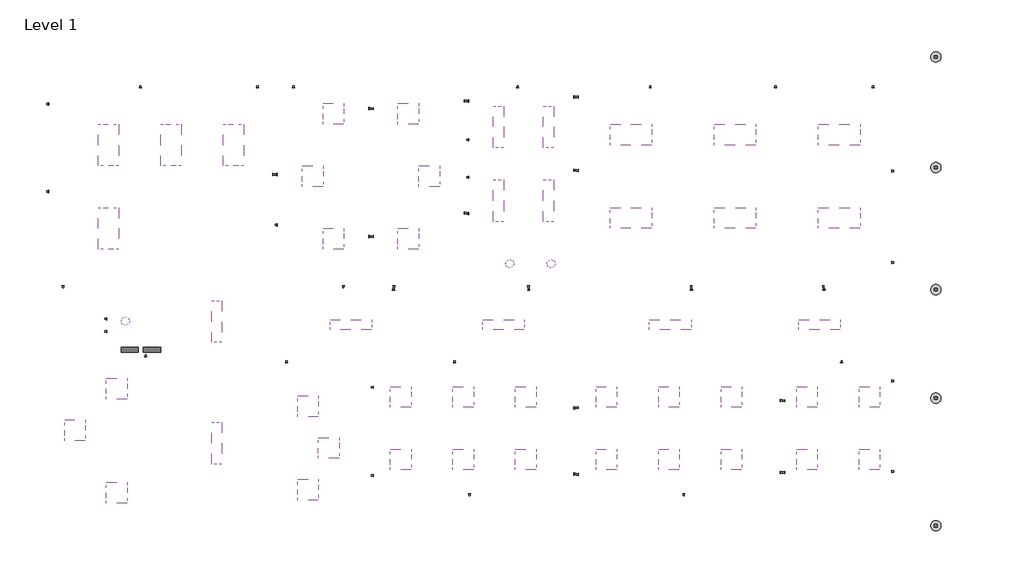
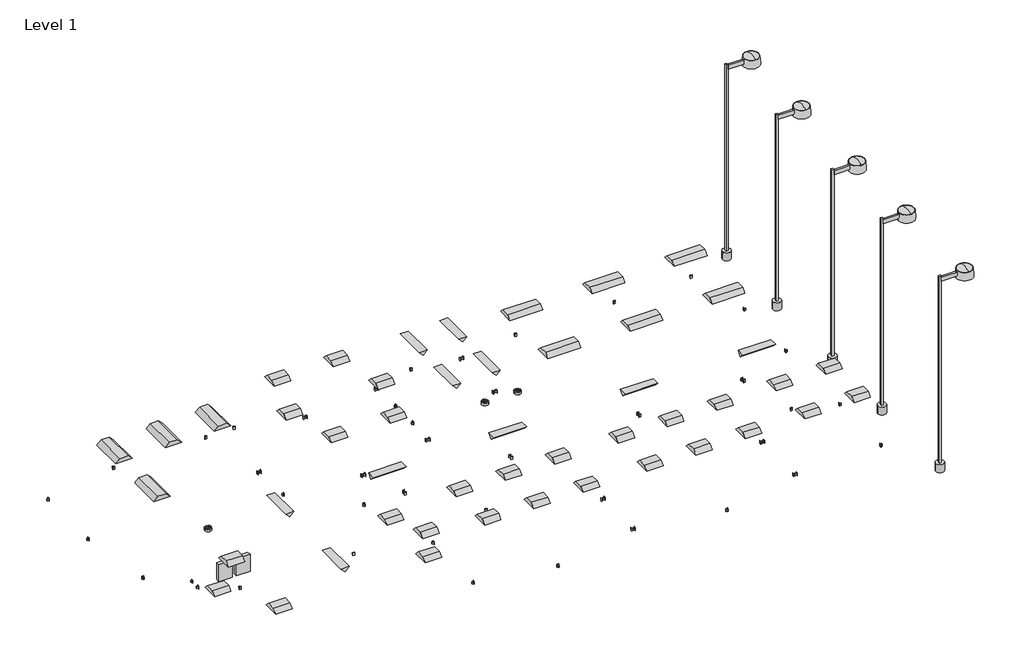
# One storey: 60 proxies, 56 light fixtures.
"""IFC4 building model written with IfcOpenShell, lengths in millimetres."""

from ifc_helpers import new_model, si_unit, origin, place, context, project, spatial, transform, mapped, element, save
from components import duplex_receptacle_standard_10251bba, lighting_and_appliance_panelboard_480v_mlo_125_a_3907a416, ceiling_light_flat_round_60w_277v_a3c1fe64, plain_recessed_lighting_fixture_1x4_277_73690371, plain_recessed_lighting_fixture_2x2_277_2107ce2d, plain_recessed_lighting_fixture_2x4_277_d3d5fc87, street_light_standard_400w_halogen_277v_63d2c179

model = new_model("IFC4")

# Units and contexts
model_context = context("Model", 3, world=origin())
ifc_project = project(units=[si_unit("LENGTHUNIT", "METRE", prefix="MILLI")], contexts=[model_context])

# Site, building, storey
site = spatial("IfcSite", under=ifc_project)
building = spatial("IfcBuilding", under=site)
storey = spatial("IfcBuildingStorey", under=building, Name="Level 1", Elevation=0.0)

# Proxies
placement = place(None, origin())
duplex_receptacle_standard_shape = duplex_receptacle_standard_10251bba(model_context)
element("IfcBuildingElementProxy", 1, Name="Duplex Receptacle : Standard", ObjectType="Duplex Receptacle : Standard", at=placement, inside=storey, context=model_context, shape_type="MappedRepresentation", body=[
    mapped(duplex_receptacle_standard_shape, transform((-35.6380103, 2648.1174507, 457.2), x_axis=(0.0, 1.0, 0.0), y_axis=(0.0, 0.0, 1.0), z_axis=(1.0, 0.0, 0.0))),
])
element("IfcBuildingElementProxy", 2, Name="Duplex Receptacle : Standard", ObjectType="Duplex Receptacle : Standard", at=placement, inside=storey, context=model_context, shape_type="MappedRepresentation", body=[
    mapped(duplex_receptacle_standard_shape, transform((-35.6380103, 3713.8918475, 457.2), x_axis=(0.0, 1.0, 0.0), y_axis=(0.0, 0.0, 1.0), z_axis=(1.0, 0.0, 0.0))),
])
element("IfcBuildingElementProxy", 3, Name="Duplex Receptacle : Standard", ObjectType="Duplex Receptacle : Standard", at=placement, inside=storey, context=model_context, shape_type="MappedRepresentation", body=[
    mapped(duplex_receptacle_standard_shape, transform((-35.6380103, 4811.7196097, 457.2), x_axis=(0.0, 1.0, 0.0), y_axis=(0.0, 0.0, 1.0), z_axis=(1.0, 0.0, 0.0))),
])
element("IfcBuildingElementProxy", 4, Name="Duplex Receptacle : Standard", ObjectType="Duplex Receptacle : Standard", at=placement, inside=storey, context=model_context, shape_type="MappedRepresentation", body=[
    mapped(duplex_receptacle_standard_shape, transform((-35.6380103, 5949.6140785, 457.2), x_axis=(0.0, 1.0, 0.0), y_axis=(0.0, 0.0, 1.0), z_axis=(1.0, 0.0, 0.0))),
])
element("IfcBuildingElementProxy", 5, Name="Duplex Receptacle : Standard", ObjectType="Duplex Receptacle : Standard", at=placement, inside=storey, context=model_context, shape_type="MappedRepresentation", body=[
    mapped(duplex_receptacle_standard_shape, transform((3054.9541807, 6058.3078836, 457.2), x_axis=(0.0, -1.0, 0.0), y_axis=(0.0, 0.0, 1.0), z_axis=(-1.0, 0.0, 0.0))),
])
element("IfcBuildingElementProxy", 6, Name="Duplex Receptacle : Standard", ObjectType="Duplex Receptacle : Standard", at=placement, inside=storey, context=model_context, shape_type="MappedRepresentation", body=[
    mapped(duplex_receptacle_standard_shape, transform((3054.9541807, 3918.7457486, 457.2), x_axis=(0.0, -1.0, 0.0), y_axis=(0.0, 0.0, 1.0), z_axis=(-1.0, 0.0, 0.0))),
])
element("IfcBuildingElementProxy", 7, Name="Duplex Receptacle : Standard", ObjectType="Duplex Receptacle : Standard", at=placement, inside=storey, context=model_context, shape_type="MappedRepresentation", body=[
    mapped(duplex_receptacle_standard_shape, transform((1404.1361978, 6330.7167452, 457.2), x_axis=(1.0, 0.0, 0.0), y_axis=(0.0, 0.0, 1.0), z_axis=(0.0, -1.0, 0.0))),
])
element("IfcBuildingElementProxy", 8, Name="Duplex Receptacle : Standard", ObjectType="Duplex Receptacle : Standard", at=placement, inside=storey, context=model_context, shape_type="MappedRepresentation", body=[
    mapped(duplex_receptacle_standard_shape, transform((-11896.9375423, 539.3362982, 457.2), x_axis=(-1.0, 0.0, 0.0), y_axis=(0.0, 0.0, 1.0), z_axis=(0.0, 1.0, 0.0))),
])
element("IfcBuildingElementProxy", 9, Name="Duplex Receptacle : Standard", ObjectType="Duplex Receptacle : Standard", at=placement, inside=storey, context=model_context, shape_type="MappedRepresentation", body=[
    mapped(duplex_receptacle_standard_shape, transform((-12326.8965226, 3293.728876, 457.2), x_axis=(0.0, 1.0, 0.0), y_axis=(0.0, 0.0, 1.0), z_axis=(1.0, 0.0, 0.0))),
])
element("IfcBuildingElementProxy", 10, Name="Duplex Receptacle : Standard", ObjectType="Duplex Receptacle : Standard", at=placement, inside=storey, context=model_context, shape_type="MappedRepresentation", body=[
    mapped(duplex_receptacle_standard_shape, transform((-12326.8965226, 5855.4034771, 457.2), x_axis=(0.0, 1.0, 0.0), y_axis=(0.0, 0.0, 1.0), z_axis=(1.0, 0.0, 0.0))),
])
element("IfcBuildingElementProxy", 11, Name="Duplex Receptacle : Standard", ObjectType="Duplex Receptacle : Standard", at=placement, inside=storey, context=model_context, shape_type="MappedRepresentation", body=[
    mapped(duplex_receptacle_standard_shape, transform((-9637.0519321, 6330.7167452, 457.2), x_axis=(1.0, 0.0, 0.0), y_axis=(0.0, 0.0, 1.0), z_axis=(0.0, -1.0, 0.0))),
])
element("IfcBuildingElementProxy", 12, Name="Duplex Receptacle : Standard", ObjectType="Duplex Receptacle : Standard", at=placement, inside=storey, context=model_context, shape_type="MappedRepresentation", body=[
    mapped(duplex_receptacle_standard_shape, transform((-6212.0214597, 6330.7167452, 457.2), x_axis=(1.0, 0.0, 0.0), y_axis=(0.0, 0.0, 1.0), z_axis=(0.0, -1.0, 0.0))),
])
element("IfcBuildingElementProxy", 13, Name="Duplex Receptacle : Standard", ObjectType="Duplex Receptacle : Standard", at=placement, inside=storey, context=model_context, shape_type="MappedRepresentation", body=[
    mapped(duplex_receptacle_standard_shape, transform((-5761.7329716, 3793.1487614, 457.2), x_axis=(0.0, -1.0, 0.0), y_axis=(0.0, 0.0, 1.0), z_axis=(-1.0, 0.0, 0.0))),
])
element("IfcBuildingElementProxy", 14, Name="Duplex Receptacle : Standard", ObjectType="Duplex Receptacle : Standard", at=placement, inside=storey, context=model_context, shape_type="MappedRepresentation", body=[
    mapped(duplex_receptacle_standard_shape, transform((-3696.8781677, 539.3362982, 457.2), x_axis=(-1.0, 0.0, 0.0), y_axis=(0.0, 0.0, 1.0), z_axis=(0.0, 1.0, 0.0))),
])
element("IfcBuildingElementProxy", 15, Name="Duplex Receptacle : Standard", ObjectType="Duplex Receptacle : Standard", at=placement, inside=storey, context=model_context, shape_type="MappedRepresentation", body=[
    mapped(duplex_receptacle_standard_shape, transform((-2943.0314516, 1977.435622, 457.2), x_axis=(0.0, -1.0, 0.0), y_axis=(0.0, 0.0, 1.0), z_axis=(-1.0, 0.0, 0.0))),
])
element("IfcBuildingElementProxy", 16, Name="Duplex Receptacle : Standard", ObjectType="Duplex Receptacle : Standard", at=placement, inside=storey, context=model_context, shape_type="MappedRepresentation", body=[
    mapped(duplex_receptacle_standard_shape, transform((-2943.0314516, 5727.6793643, 457.2), x_axis=(0.0, -1.0, 0.0), y_axis=(0.0, 0.0, 1.0), z_axis=(-1.0, 0.0, 0.0))),
])
element("IfcBuildingElementProxy", 17, Name="Duplex Receptacle : Standard", ObjectType="Duplex Receptacle : Standard", at=placement, inside=storey, context=model_context, shape_type="MappedRepresentation", body=[
    mapped(duplex_receptacle_standard_shape, transform((-5155.3062897, 6330.7167452, 457.2), x_axis=(1.0, 0.0, 0.0), y_axis=(0.0, 0.0, 1.0), z_axis=(0.0, -1.0, 0.0))),
])
element("IfcBuildingElementProxy", 18, Name="Duplex Receptacle : Standard", ObjectType="Duplex Receptacle : Standard", at=placement, inside=storey, context=model_context, shape_type="MappedRepresentation", body=[
    mapped(duplex_receptacle_standard_shape, transform((-5637.9079716, 3796.4641038, 457.2), x_axis=(0.0, 1.0, 0.0), y_axis=(0.0, 0.0, 1.0), z_axis=(1.0, 0.0, 0.0))),
])
element("IfcBuildingElementProxy", 19, Name="Duplex Receptacle : Standard", ObjectType="Duplex Receptacle : Standard", at=placement, inside=storey, context=model_context, shape_type="MappedRepresentation", body=[
    mapped(duplex_receptacle_standard_shape, transform((-5637.9079716, 2322.0092992, 457.2), x_axis=(0.0, 1.0, 0.0), y_axis=(0.0, 0.0, 1.0), z_axis=(1.0, 0.0, 0.0))),
])
element("IfcBuildingElementProxy", 20, Name="Duplex Receptacle : Standard", ObjectType="Duplex Receptacle : Standard", at=placement, inside=storey, context=model_context, shape_type="MappedRepresentation", body=[
    mapped(duplex_receptacle_standard_shape, transform((-2819.2064516, 5717.2271799, 457.2), x_axis=(0.0, 1.0, 0.0), y_axis=(0.0, 0.0, 1.0), z_axis=(1.0, 0.0, 0.0))),
])
element("IfcBuildingElementProxy", 21, Name="Duplex Receptacle : Standard", ObjectType="Duplex Receptacle : Standard", at=placement, inside=storey, context=model_context, shape_type="MappedRepresentation", body=[
    mapped(duplex_receptacle_standard_shape, transform((-2819.2064516, 1974.996779, 457.2), x_axis=(0.0, 1.0, 0.0), y_axis=(0.0, 0.0, 1.0), z_axis=(1.0, 0.0, 0.0))),
])
element("IfcBuildingElementProxy", 22, Name="Duplex Receptacle : Standard", ObjectType="Duplex Receptacle : Standard", at=placement, inside=storey, context=model_context, shape_type="MappedRepresentation", body=[
    mapped(duplex_receptacle_standard_shape, transform((-2217.8940832, 539.3362982, 457.2), x_axis=(-1.0, 0.0, 0.0), y_axis=(0.0, 0.0, 1.0), z_axis=(0.0, 1.0, 0.0))),
])
element("IfcBuildingElementProxy", 23, Name="Duplex Receptacle : Standard", ObjectType="Duplex Receptacle : Standard", at=placement, inside=storey, context=model_context, shape_type="MappedRepresentation", body=[
    mapped(duplex_receptacle_standard_shape, transform((-159.4630103, 5949.6140785, 457.2), x_axis=(0.0, -1.0, 0.0), y_axis=(0.0, 0.0, 1.0), z_axis=(-1.0, 0.0, 0.0))),
])
element("IfcBuildingElementProxy", 24, Name="Duplex Receptacle : Standard", ObjectType="Duplex Receptacle : Standard", at=placement, inside=storey, context=model_context, shape_type="MappedRepresentation", body=[
    mapped(duplex_receptacle_standard_shape, transform((-159.4630103, 2664.1441333, 457.2), x_axis=(0.0, -1.0, 0.0), y_axis=(0.0, 0.0, 1.0), z_axis=(-1.0, 0.0, 0.0))),
])
element("IfcBuildingElementProxy", 25, Name="Duplex Receptacle : Standard", ObjectType="Duplex Receptacle : Standard", at=placement, inside=storey, context=model_context, shape_type="MappedRepresentation", body=[
    mapped(duplex_receptacle_standard_shape, transform((3178.7791807, 3910.7324072, 457.2), x_axis=(0.0, 1.0, 0.0), y_axis=(0.0, 0.0, 1.0), z_axis=(1.0, 0.0, 0.0))),
])
element("IfcBuildingElementProxy", 26, Name="Duplex Receptacle : Standard", ObjectType="Duplex Receptacle : Standard", at=placement, inside=storey, context=model_context, shape_type="MappedRepresentation", body=[
    mapped(duplex_receptacle_standard_shape, transform((3178.7791807, 6058.3078836, 457.2), x_axis=(0.0, 1.0, 0.0), y_axis=(0.0, 0.0, 1.0), z_axis=(1.0, 0.0, 0.0))),
])
element("IfcBuildingElementProxy", 27, Name="Duplex Receptacle : Standard", ObjectType="Duplex Receptacle : Standard", at=placement, inside=storey, context=model_context, shape_type="MappedRepresentation", body=[
    mapped(duplex_receptacle_standard_shape, transform((5282.5934014, 6330.7167452, 457.2), x_axis=(1.0, 0.0, 0.0), y_axis=(0.0, 0.0, 1.0), z_axis=(0.0, -1.0, 0.0))),
])
element("IfcBuildingElementProxy", 28, Name="Duplex Receptacle : Standard", ObjectType="Duplex Receptacle : Standard", at=placement, inside=storey, context=model_context, shape_type="MappedRepresentation", body=[
    mapped(duplex_receptacle_standard_shape, transform((8952.7037304, 6330.7167452, 457.2), x_axis=(1.0, 0.0, 0.0), y_axis=(0.0, 0.0, 1.0), z_axis=(0.0, -1.0, 0.0))),
])
element("IfcBuildingElementProxy", 29, Name="Duplex Receptacle : Standard", ObjectType="Duplex Receptacle : Standard", at=placement, inside=storey, context=model_context, shape_type="MappedRepresentation", body=[
    mapped(duplex_receptacle_standard_shape, transform((11805.4532437, 6330.7167452, 457.2), x_axis=(1.0, 0.0, 0.0), y_axis=(0.0, 0.0, 1.0), z_axis=(0.0, -1.0, 0.0))),
])
element("IfcBuildingElementProxy", 30, Name="Duplex Receptacle : Standard", ObjectType="Duplex Receptacle : Standard", at=placement, inside=storey, context=model_context, shape_type="MappedRepresentation", body=[
    mapped(duplex_receptacle_standard_shape, transform((12355.5534774, 3898.1986981, 457.2), x_axis=(0.0, -1.0, 0.0), y_axis=(0.0, 0.0, 1.0), z_axis=(-1.0, 0.0, 0.0))),
])
element("IfcBuildingElementProxy", 31, Name="Duplex Receptacle : Standard", ObjectType="Duplex Receptacle : Standard", at=placement, inside=storey, context=model_context, shape_type="MappedRepresentation", body=[
    mapped(duplex_receptacle_standard_shape, transform((12355.5534774, 1221.742694, 457.2), x_axis=(0.0, -1.0, 0.0), y_axis=(0.0, 0.0, 1.0), z_axis=(-1.0, 0.0, 0.0))),
])
element("IfcBuildingElementProxy", 32, Name="Duplex Receptacle : Standard", ObjectType="Duplex Receptacle : Standard", at=placement, inside=storey, context=model_context, shape_type="MappedRepresentation", body=[
    mapped(duplex_receptacle_standard_shape, transform((10347.0251217, 539.3362982, 457.2), x_axis=(-1.0, 0.0, 0.0), y_axis=(0.0, 0.0, 1.0), z_axis=(0.0, 1.0, 0.0))),
])
element("IfcBuildingElementProxy", 33, Name="Duplex Receptacle : Standard", ObjectType="Duplex Receptacle : Standard", at=placement, inside=storey, context=model_context, shape_type="MappedRepresentation", body=[
    mapped(duplex_receptacle_standard_shape, transform((6484.5946008, 539.3362982, 457.2), x_axis=(-1.0, 0.0, 0.0), y_axis=(0.0, 0.0, 1.0), z_axis=(0.0, 1.0, 0.0))),
])
element("IfcBuildingElementProxy", 34, Name="Duplex Receptacle : Standard", ObjectType="Duplex Receptacle : Standard", at=placement, inside=storey, context=model_context, shape_type="MappedRepresentation", body=[
    mapped(duplex_receptacle_standard_shape, transform((10364.3439331, 415.5112982, 457.2), x_axis=(1.0, 0.0, 0.0), y_axis=(0.0, 0.0, 1.0), z_axis=(0.0, -1.0, 0.0))),
])
element("IfcBuildingElementProxy", 35, Name="Duplex Receptacle : Standard", ObjectType="Duplex Receptacle : Standard", at=placement, inside=storey, context=model_context, shape_type="MappedRepresentation", body=[
    mapped(duplex_receptacle_standard_shape, transform((6485.6062626, 415.5112982, 457.2), x_axis=(1.0, 0.0, 0.0), y_axis=(0.0, 0.0, 1.0), z_axis=(0.0, -1.0, 0.0))),
])
element("IfcBuildingElementProxy", 36, Name="Duplex Receptacle : Standard", ObjectType="Duplex Receptacle : Standard", at=placement, inside=storey, context=model_context, shape_type="MappedRepresentation", body=[
    mapped(duplex_receptacle_standard_shape, transform((1727.2641477, 415.5112982, 457.2), x_axis=(1.0, 0.0, 0.0), y_axis=(0.0, 0.0, 1.0), z_axis=(0.0, -1.0, 0.0))),
])
element("IfcBuildingElementProxy", 37, Name="Duplex Receptacle : Standard", ObjectType="Duplex Receptacle : Standard", at=placement, inside=storey, context=model_context, shape_type="MappedRepresentation", body=[
    mapped(duplex_receptacle_standard_shape, transform((1724.669851, 539.3362982, 457.2), x_axis=(-1.0, 0.0, 0.0), y_axis=(0.0, 0.0, 1.0), z_axis=(0.0, 1.0, 0.0))),
])
element("IfcBuildingElementProxy", 38, Name="Duplex Receptacle : Standard", ObjectType="Duplex Receptacle : Standard", at=placement, inside=storey, context=model_context, shape_type="MappedRepresentation", body=[
    mapped(duplex_receptacle_standard_shape, transform((-2225.6570301, 415.5112982, 457.2), x_axis=(1.0, 0.0, 0.0), y_axis=(0.0, 0.0, 1.0), z_axis=(0.0, -1.0, 0.0))),
])
element("IfcBuildingElementProxy", 39, Name="Duplex Receptacle : Standard", ObjectType="Duplex Receptacle : Standard", at=placement, inside=storey, context=model_context, shape_type="MappedRepresentation", body=[
    mapped(duplex_receptacle_standard_shape, transform((10884.0330798, -1710.3119449, 457.2), x_axis=(1.0, 0.0, 0.0), y_axis=(0.0, 0.0, 1.0), z_axis=(0.0, -1.0, 0.0))),
])
element("IfcBuildingElementProxy", 40, Name="Duplex Receptacle : Standard", ObjectType="Duplex Receptacle : Standard", at=placement, inside=storey, context=model_context, shape_type="MappedRepresentation", body=[
    mapped(duplex_receptacle_standard_shape, transform((12355.5534774, -2243.543179, 457.2), x_axis=(0.0, -1.0, 0.0), y_axis=(0.0, 0.0, 1.0), z_axis=(-1.0, 0.0, 0.0))),
])
element("IfcBuildingElementProxy", 41, Name="Duplex Receptacle : Standard", ObjectType="Duplex Receptacle : Standard", at=placement, inside=storey, context=model_context, shape_type="MappedRepresentation", body=[
    mapped(duplex_receptacle_standard_shape, transform((12355.5534774, -4891.4298793, 457.2), x_axis=(0.0, -1.0, 0.0), y_axis=(0.0, 0.0, 1.0), z_axis=(-1.0, 0.0, 0.0))),
])
element("IfcBuildingElementProxy", 42, Name="Duplex Receptacle : Standard", ObjectType="Duplex Receptacle : Standard", at=placement, inside=storey, context=model_context, shape_type="MappedRepresentation", body=[
    mapped(duplex_receptacle_standard_shape, transform((9215.7608002, -4927.7853031, 457.2), x_axis=(0.0, 1.0, 0.0), y_axis=(0.0, 0.0, 1.0), z_axis=(1.0, 0.0, 0.0))),
])
element("IfcBuildingElementProxy", 43, Name="Duplex Receptacle : Standard", ObjectType="Duplex Receptacle : Standard", at=placement, inside=storey, context=model_context, shape_type="MappedRepresentation", body=[
    mapped(duplex_receptacle_standard_shape, transform((9215.7608002, -2825.2299599, 457.2), x_axis=(0.0, 1.0, 0.0), y_axis=(0.0, 0.0, 1.0), z_axis=(1.0, 0.0, 0.0))),
])
element("IfcBuildingElementProxy", 44, Name="Duplex Receptacle : Standard", ObjectType="Duplex Receptacle : Standard", at=placement, inside=storey, context=model_context, shape_type="MappedRepresentation", body=[
    mapped(duplex_receptacle_standard_shape, transform((9091.9358002, -2822.2003412, 457.2), x_axis=(0.0, -1.0, 0.0), y_axis=(0.0, 0.0, 1.0), z_axis=(-1.0, 0.0, 0.0))),
])
element("IfcBuildingElementProxy", 45, Name="Duplex Receptacle : Standard", ObjectType="Duplex Receptacle : Standard", at=placement, inside=storey, context=model_context, shape_type="MappedRepresentation", body=[
    mapped(duplex_receptacle_standard_shape, transform((9091.9358002, -4926.5734556, 457.2), x_axis=(0.0, -1.0, 0.0), y_axis=(0.0, 0.0, 1.0), z_axis=(-1.0, 0.0, 0.0))),
])
element("IfcBuildingElementProxy", 46, Name="Duplex Receptacle : Standard", ObjectType="Duplex Receptacle : Standard", at=placement, inside=storey, context=model_context, shape_type="MappedRepresentation", body=[
    mapped(duplex_receptacle_standard_shape, transform((6264.7735239, -5550.1332548, 457.2), x_axis=(-1.0, 0.0, 0.0), y_axis=(0.0, 0.0, 1.0), z_axis=(0.0, 1.0, 0.0))),
])
element("IfcBuildingElementProxy", 47, Name="Duplex Receptacle : Standard", ObjectType="Duplex Receptacle : Standard", at=placement, inside=storey, context=model_context, shape_type="MappedRepresentation", body=[
    mapped(duplex_receptacle_standard_shape, transform((3178.7791807, -4982.3184388, 457.2), x_axis=(0.0, 1.0, 0.0), y_axis=(0.0, 0.0, 1.0), z_axis=(1.0, 0.0, 0.0))),
])
element("IfcBuildingElementProxy", 48, Name="Duplex Receptacle : Standard", ObjectType="Duplex Receptacle : Standard", at=placement, inside=storey, context=model_context, shape_type="MappedRepresentation", body=[
    mapped(duplex_receptacle_standard_shape, transform((3178.7791807, -3031.2440281, 457.2), x_axis=(0.0, 1.0, 0.0), y_axis=(0.0, 0.0, 1.0), z_axis=(1.0, 0.0, 0.0))),
])
element("IfcBuildingElementProxy", 49, Name="Duplex Receptacle : Standard", ObjectType="Duplex Receptacle : Standard", at=placement, inside=storey, context=model_context, shape_type="MappedRepresentation", body=[
    mapped(duplex_receptacle_standard_shape, transform((3054.9541807, -3040.6605751, 457.2), x_axis=(0.0, -1.0, 0.0), y_axis=(0.0, 0.0, 1.0), z_axis=(-1.0, 0.0, 0.0))),
])
element("IfcBuildingElementProxy", 50, Name="Duplex Receptacle : Standard", ObjectType="Duplex Receptacle : Standard", at=placement, inside=storey, context=model_context, shape_type="MappedRepresentation", body=[
    mapped(duplex_receptacle_standard_shape, transform((3054.9541807, -4971.8758356, 457.2), x_axis=(0.0, -1.0, 0.0), y_axis=(0.0, 0.0, 1.0), z_axis=(-1.0, 0.0, 0.0))),
])
element("IfcBuildingElementProxy", 51, Name="Duplex Receptacle : Standard", ObjectType="Duplex Receptacle : Standard", at=placement, inside=storey, context=model_context, shape_type="MappedRepresentation", body=[
    mapped(duplex_receptacle_standard_shape, transform((-2819.2064516, -5011.9425422, 457.2), x_axis=(0.0, 1.0, 0.0), y_axis=(0.0, 0.0, 1.0), z_axis=(1.0, 0.0, 0.0))),
])
element("IfcBuildingElementProxy", 52, Name="Duplex Receptacle : Standard", ObjectType="Duplex Receptacle : Standard", at=placement, inside=storey, context=model_context, shape_type="MappedRepresentation", body=[
    mapped(duplex_receptacle_standard_shape, transform((-2819.2064516, -2431.6466341, 457.2), x_axis=(0.0, 1.0, 0.0), y_axis=(0.0, 0.0, 1.0), z_axis=(1.0, 0.0, 0.0))),
])
element("IfcBuildingElementProxy", 53, Name="Duplex Receptacle : Standard", ObjectType="Duplex Receptacle : Standard", at=placement, inside=storey, context=model_context, shape_type="MappedRepresentation", body=[
    mapped(duplex_receptacle_standard_shape, transform((-443.3364786, -1710.3119449, 457.2), x_axis=(1.0, 0.0, 0.0), y_axis=(0.0, 0.0, 1.0), z_axis=(0.0, -1.0, 0.0))),
])
element("IfcBuildingElementProxy", 54, Name="Duplex Receptacle : Standard", ObjectType="Duplex Receptacle : Standard", at=placement, inside=storey, context=model_context, shape_type="MappedRepresentation", body=[
    mapped(duplex_receptacle_standard_shape, transform((-2.6027055, -5550.1332548, 457.2), x_axis=(-1.0, 0.0, 0.0), y_axis=(0.0, 0.0, 1.0), z_axis=(0.0, 1.0, 0.0))),
])
element("IfcBuildingElementProxy", 55, Name="Duplex Receptacle : Standard", ObjectType="Duplex Receptacle : Standard", at=placement, inside=storey, context=model_context, shape_type="MappedRepresentation", body=[
    mapped(duplex_receptacle_standard_shape, transform((-5361.484653, -1710.3119449, 457.2), x_axis=(1.0, 0.0, 0.0), y_axis=(0.0, 0.0, 1.0), z_axis=(0.0, -1.0, 0.0))),
])
element("IfcBuildingElementProxy", 56, Name="Duplex Receptacle : Standard", ObjectType="Duplex Receptacle : Standard", at=placement, inside=storey, context=model_context, shape_type="MappedRepresentation", body=[
    mapped(duplex_receptacle_standard_shape, transform((-9480.7427635, -1530.7127622, 457.2), x_axis=(1.0, 0.0, 0.0), y_axis=(0.0, 0.0, 1.0), z_axis=(0.0, -1.0, 0.0))),
])
element("IfcBuildingElementProxy", 57, Name="Duplex Receptacle : Standard", ObjectType="Duplex Receptacle : Standard", at=placement, inside=storey, context=model_context, shape_type="MappedRepresentation", body=[
    mapped(duplex_receptacle_standard_shape, transform((-10618.9849987, -802.683715, 457.2), x_axis=(0.0, 1.0, 0.0), y_axis=(0.0, 0.0, 1.0), z_axis=(1.0, 0.0, 0.0))),
])
element("IfcBuildingElementProxy", 58, Name="Duplex Receptacle : Standard", ObjectType="Duplex Receptacle : Standard", at=placement, inside=storey, context=model_context, shape_type="MappedRepresentation", body=[
    mapped(duplex_receptacle_standard_shape, transform((-10618.9849987, -428.1176265, 457.2), x_axis=(0.0, 1.0, 0.0), y_axis=(0.0, 0.0, 1.0), z_axis=(1.0, 0.0, 0.0))),
])
lighting_and_appliance_panelboard_480v_mlo_125_a_shape = lighting_and_appliance_panelboard_480v_mlo_125_a_3907a416(model_context)
element("IfcBuildingElementProxy", 59, Name="Lighting and Appliance Panelboard - 480V MLO : 125 A", ObjectType="Lighting and Appliance Panelboard - 480V MLO : 125 A", at=placement, inside=storey, context=model_context, shape_type="MappedRepresentation", body=[
    mapped(lighting_and_appliance_panelboard_480v_mlo_125_a_shape, transform((-9291.2901419, -1406.8877622, 845.3274047), x_axis=(1.0, 0.0, 0.0), y_axis=(0.0, 0.0, 1.0), z_axis=(0.0, -1.0, 0.0))),
])
element("IfcBuildingElementProxy", 60, Name="Lighting and Appliance Panelboard - 480V MLO : 125 A", ObjectType="Lighting and Appliance Panelboard - 480V MLO : 125 A", at=placement, inside=storey, context=model_context, shape_type="MappedRepresentation", body=[
    mapped(lighting_and_appliance_panelboard_480v_mlo_125_a_shape, transform((-9945.3698499, -1406.8877622, 1593.0725953), x_axis=(-1.0, 0.0, 0.0), y_axis=(0.0, 0.0, -1.0), z_axis=(0.0, -1.0, 0.0))),
])

# Light fixtures
ceiling_light_flat_round_60w_277v_shape = ceiling_light_flat_round_60w_277v_a3c1fe64(model_context)
element("IfcLightFixture", 61, ObjectType="Ceiling Light - Flat Round : 60W - 277V", at=placement, inside=storey, context=model_context, shape_type="MappedRepresentation", body=[
    mapped(ceiling_light_flat_round_60w_277v_shape, transform((2383.8661295, 1183.5273163, 2438.4), x_axis=(1.0, 0.0, 0.0), y_axis=(0.0, -1.0, 0.0), z_axis=(0.0, 0.0, -1.0))),
])
element("IfcLightFixture", 62, ObjectType="Ceiling Light - Flat Round : 60W - 277V", at=placement, inside=storey, context=model_context, shape_type="MappedRepresentation", body=[
    mapped(ceiling_light_flat_round_60w_277v_shape, transform((1173.2843647, 1183.5273163, 2438.4), x_axis=(1.0, 0.0, 0.0), y_axis=(0.0, -1.0, 0.0), z_axis=(0.0, 0.0, -1.0))),
])
element("IfcLightFixture", 63, ObjectType="Ceiling Light - Flat Round : 60W - 277V", at=placement, inside=storey, context=model_context, shape_type="MappedRepresentation", body=[
    mapped(ceiling_light_flat_round_60w_277v_shape, transform((-10072.8185222, -495.688232, 2438.4), x_axis=(1.0, 0.0, 0.0), y_axis=(0.0, -1.0, 0.0), z_axis=(0.0, 0.0, -1.0))),
])
plain_recessed_lighting_fixture_1x4_277_shape = plain_recessed_lighting_fixture_1x4_277_73690371(model_context)
element("IfcLightFixture", 64, ObjectType="Plain Recessed Lighting Fixture : 1x4 - 277", at=placement, inside=storey, context=model_context, shape_type="MappedRepresentation", body=[
    mapped(plain_recessed_lighting_fixture_1x4_277_shape, transform((-4086.8396974, -448.5225822, 2438.4), x_axis=(1.0, 0.0, 0.0), y_axis=(0.0, 1.0, 0.0), z_axis=(0.0, 0.0, 1.0))),
])
element("IfcLightFixture", 65, ObjectType="Plain Recessed Lighting Fixture : 1x4 - 277", at=placement, inside=storey, context=model_context, shape_type="MappedRepresentation", body=[
    mapped(plain_recessed_lighting_fixture_1x4_277_shape, transform((383.5603026, -448.5225822, 2438.4), x_axis=(1.0, 0.0, 0.0), y_axis=(0.0, 1.0, 0.0), z_axis=(0.0, 0.0, 1.0))),
])
element("IfcLightFixture", 66, ObjectType="Plain Recessed Lighting Fixture : 1x4 - 277", at=placement, inside=storey, context=model_context, shape_type="MappedRepresentation", body=[
    mapped(plain_recessed_lighting_fixture_1x4_277_shape, transform((5260.3603026, -448.5225822, 2438.4), x_axis=(1.0, 0.0, 0.0), y_axis=(0.0, 1.0, 0.0), z_axis=(0.0, 0.0, 1.0))),
])
element("IfcLightFixture", 67, ObjectType="Plain Recessed Lighting Fixture : 1x4 - 277", at=placement, inside=storey, context=model_context, shape_type="MappedRepresentation", body=[
    mapped(plain_recessed_lighting_fixture_1x4_277_shape, transform((9629.1603026, -448.5225822, 2438.4), x_axis=(1.0, 0.0, 0.0), y_axis=(0.0, 1.0, 0.0), z_axis=(0.0, 0.0, 1.0))),
])
element("IfcLightFixture", 68, ObjectType="Plain Recessed Lighting Fixture : 1x4 - 277", at=placement, inside=storey, context=model_context, shape_type="MappedRepresentation", body=[
    mapped(plain_recessed_lighting_fixture_1x4_277_shape, transform((-7553.1170415, -1121.3482269, 2438.4), x_axis=(0.0, 1.0, 0.0), y_axis=(-1.0, 0.0, 0.0), z_axis=(0.0, 0.0, 1.0))),
])
element("IfcLightFixture", 69, ObjectType="Plain Recessed Lighting Fixture : 1x4 - 277", at=placement, inside=storey, context=model_context, shape_type="MappedRepresentation", body=[
    mapped(plain_recessed_lighting_fixture_1x4_277_shape, transform((-7553.1170415, -4680.447715, 2438.4), x_axis=(0.0, 1.0, 0.0), y_axis=(-1.0, 0.0, 0.0), z_axis=(0.0, 0.0, 1.0))),
])
element("IfcLightFixture", 70, ObjectType="Plain Recessed Lighting Fixture : 1x4 - 277", at=placement, inside=storey, context=model_context, shape_type="MappedRepresentation", body=[
    mapped(plain_recessed_lighting_fixture_1x4_277_shape, transform((690.4888321, 4574.6175062, 2438.4), x_axis=(0.0, 1.0, 0.0), y_axis=(-1.0, 0.0, 0.0), z_axis=(0.0, 0.0, 1.0))),
])
element("IfcLightFixture", 71, ObjectType="Plain Recessed Lighting Fixture : 1x4 - 277", at=placement, inside=storey, context=model_context, shape_type="MappedRepresentation", body=[
    mapped(plain_recessed_lighting_fixture_1x4_277_shape, transform((2158.6173709, 4574.6175062, 2438.4), x_axis=(0.0, 1.0, 0.0), y_axis=(-1.0, 0.0, 0.0), z_axis=(0.0, 0.0, 1.0))),
])
element("IfcLightFixture", 72, ObjectType="Plain Recessed Lighting Fixture : 1x4 - 277", at=placement, inside=storey, context=model_context, shape_type="MappedRepresentation", body=[
    mapped(plain_recessed_lighting_fixture_1x4_277_shape, transform((2158.6173709, 2416.9134415, 2438.4), x_axis=(0.0, 1.0, 0.0), y_axis=(-1.0, 0.0, 0.0), z_axis=(0.0, 0.0, 1.0))),
])
element("IfcLightFixture", 73, ObjectType="Plain Recessed Lighting Fixture : 1x4 - 277", at=placement, inside=storey, context=model_context, shape_type="MappedRepresentation", body=[
    mapped(plain_recessed_lighting_fixture_1x4_277_shape, transform((690.4888321, 2416.9134415, 2438.4), x_axis=(0.0, 1.0, 0.0), y_axis=(-1.0, 0.0, 0.0), z_axis=(0.0, 0.0, 1.0))),
])
plain_recessed_lighting_fixture_2x2_277_shape = plain_recessed_lighting_fixture_2x2_277_2107ce2d(model_context)
element("IfcLightFixture", 74, ObjectType="Plain Recessed Lighting Fixture : 2x2 - 277", at=placement, inside=storey, context=model_context, shape_type="MappedRepresentation", body=[
    mapped(plain_recessed_lighting_fixture_2x2_277_shape, transform((-2320.5261355, -3020.6225998, 2438.4), x_axis=(1.0, 0.0, 0.0), y_axis=(0.0, -1.0, 0.0), z_axis=(0.0, 0.0, -1.0))),
])
element("IfcLightFixture", 75, ObjectType="Plain Recessed Lighting Fixture : 2x2 - 277", at=placement, inside=storey, context=model_context, shape_type="MappedRepresentation", body=[
    mapped(plain_recessed_lighting_fixture_2x2_277_shape, transform((-2320.5261355, -4849.4225998, 2438.4), x_axis=(1.0, 0.0, 0.0), y_axis=(0.0, -1.0, 0.0), z_axis=(0.0, 0.0, -1.0))),
])
element("IfcLightFixture", 76, ObjectType="Plain Recessed Lighting Fixture : 2x2 - 277", at=placement, inside=storey, context=model_context, shape_type="MappedRepresentation", body=[
    mapped(plain_recessed_lighting_fixture_2x2_277_shape, transform((-491.7261355, -3020.6225998, 2438.4), x_axis=(1.0, 0.0, 0.0), y_axis=(0.0, -1.0, 0.0), z_axis=(0.0, 0.0, -1.0))),
])
element("IfcLightFixture", 77, ObjectType="Plain Recessed Lighting Fixture : 2x2 - 277", at=placement, inside=storey, context=model_context, shape_type="MappedRepresentation", body=[
    mapped(plain_recessed_lighting_fixture_2x2_277_shape, transform((-491.7261355, -4849.4225998, 2438.4), x_axis=(1.0, 0.0, 0.0), y_axis=(0.0, -1.0, 0.0), z_axis=(0.0, 0.0, -1.0))),
])
element("IfcLightFixture", 78, ObjectType="Plain Recessed Lighting Fixture : 2x2 - 277", at=placement, inside=storey, context=model_context, shape_type="MappedRepresentation", body=[
    mapped(plain_recessed_lighting_fixture_2x2_277_shape, transform((1337.0738645, -3020.6225998, 2438.4), x_axis=(1.0, 0.0, 0.0), y_axis=(0.0, -1.0, 0.0), z_axis=(0.0, 0.0, -1.0))),
])
element("IfcLightFixture", 79, ObjectType="Plain Recessed Lighting Fixture : 2x2 - 277", at=placement, inside=storey, context=model_context, shape_type="MappedRepresentation", body=[
    mapped(plain_recessed_lighting_fixture_2x2_277_shape, transform((1337.0738645, -4849.4225998, 2438.4), x_axis=(1.0, 0.0, 0.0), y_axis=(0.0, -1.0, 0.0), z_axis=(0.0, 0.0, -1.0))),
])
element("IfcLightFixture", 80, ObjectType="Plain Recessed Lighting Fixture : 2x2 - 277", at=placement, inside=storey, context=model_context, shape_type="MappedRepresentation", body=[
    mapped(plain_recessed_lighting_fixture_2x2_277_shape, transform((3696.9574904, -3020.6225998, 2438.4), x_axis=(1.0, 0.0, 0.0), y_axis=(0.0, -1.0, 0.0), z_axis=(0.0, 0.0, -1.0))),
])
element("IfcLightFixture", 81, ObjectType="Plain Recessed Lighting Fixture : 2x2 - 277", at=placement, inside=storey, context=model_context, shape_type="MappedRepresentation", body=[
    mapped(plain_recessed_lighting_fixture_2x2_277_shape, transform((3696.9574904, -4849.4225998, 2438.4), x_axis=(1.0, 0.0, 0.0), y_axis=(0.0, -1.0, 0.0), z_axis=(0.0, 0.0, -1.0))),
])
element("IfcLightFixture", 82, ObjectType="Plain Recessed Lighting Fixture : 2x2 - 277", at=placement, inside=storey, context=model_context, shape_type="MappedRepresentation", body=[
    mapped(plain_recessed_lighting_fixture_2x2_277_shape, transform((5525.7574904, -3020.6225998, 2438.4), x_axis=(1.0, 0.0, 0.0), y_axis=(0.0, -1.0, 0.0), z_axis=(0.0, 0.0, -1.0))),
])
element("IfcLightFixture", 83, ObjectType="Plain Recessed Lighting Fixture : 2x2 - 277", at=placement, inside=storey, context=model_context, shape_type="MappedRepresentation", body=[
    mapped(plain_recessed_lighting_fixture_2x2_277_shape, transform((5525.7574904, -4849.4225998, 2438.4), x_axis=(1.0, 0.0, 0.0), y_axis=(0.0, -1.0, 0.0), z_axis=(0.0, 0.0, -1.0))),
])
element("IfcLightFixture", 84, ObjectType="Plain Recessed Lighting Fixture : 2x2 - 277", at=placement, inside=storey, context=model_context, shape_type="MappedRepresentation", body=[
    mapped(plain_recessed_lighting_fixture_2x2_277_shape, transform((7354.5574904, -3020.6225998, 2438.4), x_axis=(1.0, 0.0, 0.0), y_axis=(0.0, -1.0, 0.0), z_axis=(0.0, 0.0, -1.0))),
])
element("IfcLightFixture", 85, ObjectType="Plain Recessed Lighting Fixture : 2x2 - 277", at=placement, inside=storey, context=model_context, shape_type="MappedRepresentation", body=[
    mapped(plain_recessed_lighting_fixture_2x2_277_shape, transform((7354.5574904, -4849.4225998, 2438.4), x_axis=(1.0, 0.0, 0.0), y_axis=(0.0, -1.0, 0.0), z_axis=(0.0, 0.0, -1.0))),
])
element("IfcLightFixture", 86, ObjectType="Plain Recessed Lighting Fixture : 2x2 - 277", at=placement, inside=storey, context=model_context, shape_type="MappedRepresentation", body=[
    mapped(plain_recessed_lighting_fixture_2x2_277_shape, transform((9566.4571388, -3020.6225998, 2438.4), x_axis=(1.0, 0.0, 0.0), y_axis=(0.0, -1.0, 0.0), z_axis=(0.0, 0.0, -1.0))),
])
element("IfcLightFixture", 87, ObjectType="Plain Recessed Lighting Fixture : 2x2 - 277", at=placement, inside=storey, context=model_context, shape_type="MappedRepresentation", body=[
    mapped(plain_recessed_lighting_fixture_2x2_277_shape, transform((11395.2571388, -3020.6225998, 2438.4), x_axis=(1.0, 0.0, 0.0), y_axis=(0.0, -1.0, 0.0), z_axis=(0.0, 0.0, -1.0))),
])
element("IfcLightFixture", 88, ObjectType="Plain Recessed Lighting Fixture : 2x2 - 277", at=placement, inside=storey, context=model_context, shape_type="MappedRepresentation", body=[
    mapped(plain_recessed_lighting_fixture_2x2_277_shape, transform((9566.4571388, -4849.4225998, 2438.4), x_axis=(1.0, 0.0, 0.0), y_axis=(0.0, -1.0, 0.0), z_axis=(0.0, 0.0, -1.0))),
])
element("IfcLightFixture", 89, ObjectType="Plain Recessed Lighting Fixture : 2x2 - 277", at=placement, inside=storey, context=model_context, shape_type="MappedRepresentation", body=[
    mapped(plain_recessed_lighting_fixture_2x2_277_shape, transform((11395.2571388, -4849.4225998, 2438.4), x_axis=(1.0, 0.0, 0.0), y_axis=(0.0, -1.0, 0.0), z_axis=(0.0, 0.0, -1.0))),
])
element("IfcLightFixture", 90, ObjectType="Plain Recessed Lighting Fixture : 2x2 - 277", at=placement, inside=storey, context=model_context, shape_type="MappedRepresentation", body=[
    mapped(plain_recessed_lighting_fixture_2x2_277_shape, transform((-4290.4697116, 5263.8265217, 2438.4), x_axis=(1.0, 0.0, 0.0), y_axis=(0.0, -1.0, 0.0), z_axis=(0.0, 0.0, -1.0))),
])
element("IfcLightFixture", 91, ObjectType="Plain Recessed Lighting Fixture : 2x2 - 277", at=placement, inside=storey, context=model_context, shape_type="MappedRepresentation", body=[
    mapped(plain_recessed_lighting_fixture_2x2_277_shape, transform((-4900.0697116, 3435.0265217, 2438.4), x_axis=(1.0, 0.0, 0.0), y_axis=(0.0, -1.0, 0.0), z_axis=(0.0, 0.0, -1.0))),
])
element("IfcLightFixture", 92, ObjectType="Plain Recessed Lighting Fixture : 2x2 - 277", at=placement, inside=storey, context=model_context, shape_type="MappedRepresentation", body=[
    mapped(plain_recessed_lighting_fixture_2x2_277_shape, transform((-4290.4697116, 1606.2265217, 2438.4), x_axis=(1.0, 0.0, 0.0), y_axis=(0.0, -1.0, 0.0), z_axis=(0.0, 0.0, -1.0))),
])
element("IfcLightFixture", 93, ObjectType="Plain Recessed Lighting Fixture : 2x2 - 277", at=placement, inside=storey, context=model_context, shape_type="MappedRepresentation", body=[
    mapped(plain_recessed_lighting_fixture_2x2_277_shape, transform((-2098.9347309, 5263.8265217, 2438.4), x_axis=(1.0, 0.0, 0.0), y_axis=(0.0, -1.0, 0.0), z_axis=(0.0, 0.0, -1.0))),
])
element("IfcLightFixture", 94, ObjectType="Plain Recessed Lighting Fixture : 2x2 - 277", at=placement, inside=storey, context=model_context, shape_type="MappedRepresentation", body=[
    mapped(plain_recessed_lighting_fixture_2x2_277_shape, transform((-1489.3347309, 3435.0265217, 2438.4), x_axis=(1.0, 0.0, 0.0), y_axis=(0.0, -1.0, 0.0), z_axis=(0.0, 0.0, -1.0))),
])
element("IfcLightFixture", 95, ObjectType="Plain Recessed Lighting Fixture : 2x2 - 277", at=placement, inside=storey, context=model_context, shape_type="MappedRepresentation", body=[
    mapped(plain_recessed_lighting_fixture_2x2_277_shape, transform((-2098.9347309, 1606.2265217, 2438.4), x_axis=(1.0, 0.0, 0.0), y_axis=(0.0, -1.0, 0.0), z_axis=(0.0, 0.0, -1.0))),
])
element("IfcLightFixture", 96, ObjectType="Plain Recessed Lighting Fixture : 2x2 - 277", at=placement, inside=storey, context=model_context, shape_type="MappedRepresentation", body=[
    mapped(plain_recessed_lighting_fixture_2x2_277_shape, transform((-10634.0662487, -2778.4230085, 2438.4), x_axis=(1.0, 0.0, 0.0), y_axis=(0.0, -1.0, 0.0), z_axis=(0.0, 0.0, -1.0))),
])
element("IfcLightFixture", 97, ObjectType="Plain Recessed Lighting Fixture : 2x2 - 277", at=placement, inside=storey, context=model_context, shape_type="MappedRepresentation", body=[
    mapped(plain_recessed_lighting_fixture_2x2_277_shape, transform((-11853.2662487, -3997.6230085, 2438.4), x_axis=(1.0, 0.0, 0.0), y_axis=(0.0, -1.0, 0.0), z_axis=(0.0, 0.0, -1.0))),
])
element("IfcLightFixture", 98, ObjectType="Plain Recessed Lighting Fixture : 2x2 - 277", at=placement, inside=storey, context=model_context, shape_type="MappedRepresentation", body=[
    mapped(plain_recessed_lighting_fixture_2x2_277_shape, transform((-10634.0662487, -5826.4230085, 2438.4), x_axis=(1.0, 0.0, 0.0), y_axis=(0.0, -1.0, 0.0), z_axis=(0.0, 0.0, -1.0))),
])
element("IfcLightFixture", 99, ObjectType="Plain Recessed Lighting Fixture : 2x2 - 277", at=placement, inside=storey, context=model_context, shape_type="MappedRepresentation", body=[
    mapped(plain_recessed_lighting_fixture_2x2_277_shape, transform((-5034.7690987, -3296.1440733, 2438.4), x_axis=(1.0, 0.0, 0.0), y_axis=(0.0, -1.0, 0.0), z_axis=(0.0, 0.0, -1.0))),
])
element("IfcLightFixture", 100, ObjectType="Plain Recessed Lighting Fixture : 2x2 - 277", at=placement, inside=storey, context=model_context, shape_type="MappedRepresentation", body=[
    mapped(plain_recessed_lighting_fixture_2x2_277_shape, transform((-4425.1690987, -4515.3440733, 2438.4), x_axis=(1.0, 0.0, 0.0), y_axis=(0.0, -1.0, 0.0), z_axis=(0.0, 0.0, -1.0))),
])
element("IfcLightFixture", 101, ObjectType="Plain Recessed Lighting Fixture : 2x2 - 277", at=placement, inside=storey, context=model_context, shape_type="MappedRepresentation", body=[
    mapped(plain_recessed_lighting_fixture_2x2_277_shape, transform((-5034.7690987, -5734.5440733, 2438.4), x_axis=(1.0, 0.0, 0.0), y_axis=(0.0, -1.0, 0.0), z_axis=(0.0, 0.0, -1.0))),
])
plain_recessed_lighting_fixture_2x4_277_shape = plain_recessed_lighting_fixture_2x4_277_d3d5fc87(model_context)
element("IfcLightFixture", 102, ObjectType="Plain Recessed Lighting Fixture : 2x4 - 277", at=placement, inside=storey, context=model_context, shape_type="MappedRepresentation", body=[
    mapped(plain_recessed_lighting_fixture_2x4_277_shape, transform((4109.566329, 4654.2265217, 2438.4), x_axis=(1.0, 0.0, 0.0), y_axis=(0.0, -1.0, 0.0), z_axis=(0.0, 0.0, -1.0))),
])
element("IfcLightFixture", 103, ObjectType="Plain Recessed Lighting Fixture : 2x4 - 277", at=placement, inside=storey, context=model_context, shape_type="MappedRepresentation", body=[
    mapped(plain_recessed_lighting_fixture_2x4_277_shape, transform((7157.566329, 4654.2265217, 2438.4), x_axis=(1.0, 0.0, 0.0), y_axis=(0.0, -1.0, 0.0), z_axis=(0.0, 0.0, -1.0))),
])
element("IfcLightFixture", 104, ObjectType="Plain Recessed Lighting Fixture : 2x4 - 277", at=placement, inside=storey, context=model_context, shape_type="MappedRepresentation", body=[
    mapped(plain_recessed_lighting_fixture_2x4_277_shape, transform((10205.566329, 4654.2265217, 2438.4), x_axis=(1.0, 0.0, 0.0), y_axis=(0.0, -1.0, 0.0), z_axis=(0.0, 0.0, -1.0))),
])
element("IfcLightFixture", 105, ObjectType="Plain Recessed Lighting Fixture : 2x4 - 277", at=placement, inside=storey, context=model_context, shape_type="MappedRepresentation", body=[
    mapped(plain_recessed_lighting_fixture_2x4_277_shape, transform((4109.566329, 2215.8265217, 2438.4), x_axis=(1.0, 0.0, 0.0), y_axis=(0.0, -1.0, 0.0), z_axis=(0.0, 0.0, -1.0))),
])
element("IfcLightFixture", 106, ObjectType="Plain Recessed Lighting Fixture : 2x4 - 277", at=placement, inside=storey, context=model_context, shape_type="MappedRepresentation", body=[
    mapped(plain_recessed_lighting_fixture_2x4_277_shape, transform((7157.566329, 2215.8265217, 2438.4), x_axis=(1.0, 0.0, 0.0), y_axis=(0.0, -1.0, 0.0), z_axis=(0.0, 0.0, -1.0))),
])
element("IfcLightFixture", 107, ObjectType="Plain Recessed Lighting Fixture : 2x4 - 277", at=placement, inside=storey, context=model_context, shape_type="MappedRepresentation", body=[
    mapped(plain_recessed_lighting_fixture_2x4_277_shape, transform((10205.566329, 2215.8265217, 2438.4), x_axis=(1.0, 0.0, 0.0), y_axis=(0.0, -1.0, 0.0), z_axis=(0.0, 0.0, -1.0))),
])
element("IfcLightFixture", 108, ObjectType="Plain Recessed Lighting Fixture : 2x4 - 277", at=placement, inside=storey, context=model_context, shape_type="MappedRepresentation", body=[
    mapped(plain_recessed_lighting_fixture_2x4_277_shape, transform((-7215.5147471, 5263.8265217, 2438.4), x_axis=(0.0, -1.0, 0.0), y_axis=(-1.0, 0.0, 0.0), z_axis=(0.0, 0.0, -1.0))),
])
element("IfcLightFixture", 109, ObjectType="Plain Recessed Lighting Fixture : 2x4 - 277", at=placement, inside=storey, context=model_context, shape_type="MappedRepresentation", body=[
    mapped(plain_recessed_lighting_fixture_2x4_277_shape, transform((-9044.3147471, 5263.8265217, 2438.4), x_axis=(0.0, -1.0, 0.0), y_axis=(-1.0, 0.0, 0.0), z_axis=(0.0, 0.0, -1.0))),
])
element("IfcLightFixture", 110, ObjectType="Plain Recessed Lighting Fixture : 2x4 - 277", at=placement, inside=storey, context=model_context, shape_type="MappedRepresentation", body=[
    mapped(plain_recessed_lighting_fixture_2x4_277_shape, transform((-10873.1147471, 5263.8265217, 2438.4), x_axis=(0.0, -1.0, 0.0), y_axis=(-1.0, 0.0, 0.0), z_axis=(0.0, 0.0, -1.0))),
])
element("IfcLightFixture", 111, ObjectType="Plain Recessed Lighting Fixture : 2x4 - 277", at=placement, inside=storey, context=model_context, shape_type="MappedRepresentation", body=[
    mapped(plain_recessed_lighting_fixture_2x4_277_shape, transform((-10873.1147471, 2825.4265217, 2438.4), x_axis=(0.0, -1.0, 0.0), y_axis=(-1.0, 0.0, 0.0), z_axis=(0.0, 0.0, -1.0))),
])
street_light_standard_400w_halogen_277v_shape = street_light_standard_400w_halogen_277v_63d2c179(model_context)
element("IfcLightFixture", 112, ObjectType="Street Light - Standard : 400W Halogen - 277V", at=placement, inside=storey, context=model_context, shape_type="MappedRepresentation", body=[
    mapped(street_light_standard_400w_halogen_277v_shape, transform((13638.4206878, -6482.4996817, 0.0), x_axis=(-1.0, 0.0, 0.0), y_axis=(0.0, -1.0, 0.0), z_axis=(0.0, 0.0, 1.0))),
])
element("IfcLightFixture", 113, ObjectType="Street Light - Standard : 400W Halogen - 277V", at=placement, inside=storey, context=model_context, shape_type="MappedRepresentation", body=[
    mapped(street_light_standard_400w_halogen_277v_shape, transform((13638.4206878, -2748.4447591, 0.0), x_axis=(-1.0, 0.0, 0.0), y_axis=(0.0, -1.0, 0.0), z_axis=(0.0, 0.0, 1.0))),
])
element("IfcLightFixture", 114, ObjectType="Street Light - Standard : 400W Halogen - 277V", at=placement, inside=storey, context=model_context, shape_type="MappedRepresentation", body=[
    mapped(street_light_standard_400w_halogen_277v_shape, transform((13638.4206878, 425.8506431, 0.0), x_axis=(-1.0, 0.0, 0.0), y_axis=(0.0, -1.0, 0.0), z_axis=(0.0, 0.0, 1.0))),
])
element("IfcLightFixture", 115, ObjectType="Street Light - Standard : 400W Halogen - 277V", at=placement, inside=storey, context=model_context, shape_type="MappedRepresentation", body=[
    mapped(street_light_standard_400w_halogen_277v_shape, transform((13638.4206878, 3998.1498485, 0.0), x_axis=(-1.0, 0.0, 0.0), y_axis=(0.0, -1.0, 0.0), z_axis=(0.0, 0.0, 1.0))),
])
element("IfcLightFixture", 116, ObjectType="Street Light - Standard : 400W Halogen - 277V", at=placement, inside=storey, context=model_context, shape_type="MappedRepresentation", body=[
    mapped(street_light_standard_400w_halogen_277v_shape, transform((13638.4206878, 7233.6809624, 0.0), x_axis=(-1.0, 0.0, 0.0), y_axis=(0.0, -1.0, 0.0), z_axis=(0.0, 0.0, 1.0))),
])

save(model, "model.ifc")
